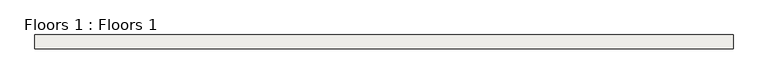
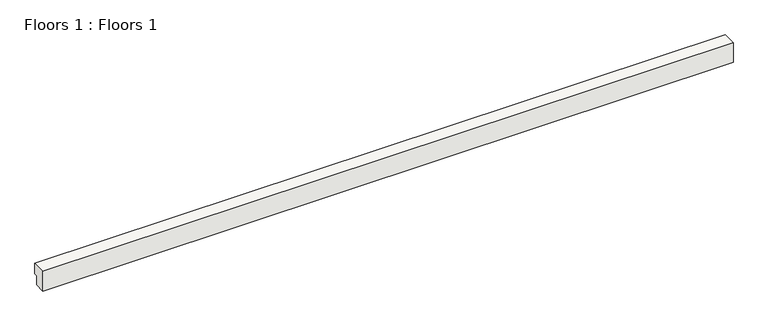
"""IFC4 building model written with IfcOpenShell, lengths in millimetres: slab geometry, Floors 1 : Floors 1."""

from ifc_helpers import new_model, si_unit, frame, origin, place, context, project, spatial, polyline, outline, extrude, source, transform, mapped, element, save


def floors_1_floors_1_6af37cf8(model_context):
    return source(origin(), model_context, "Body", "SweptSolid", [
        extrude(outline(polyline([(452.1543106, 0.0), (452.1543106, -80.0), (432.1543106, -80.0), (432.1543106, -150.0), (352.1543106, -150.0), (352.1543106, 0.0), (452.1543106, 0.0)])), frame((-2729.1859986, 0.0, 0.0), z_axis=(1.0, 0.0, 0.0), x_axis=(0.0, 1.0, 0.0)), (0.0, 0.0, 1.0), 4993.0779802),
    ])


if __name__ == "__main__":
    model = new_model("IFC4")
    model_context = context("Model", 3, world=origin())
    ifc_project = project(units=[si_unit("LENGTHUNIT", "METRE", prefix="MILLI")], contexts=[model_context])
    site = spatial("IfcSite", under=ifc_project)
    building = spatial("IfcBuilding", under=site)
    placement = place(None, origin())
    floors_1_floors_1_shape = floors_1_floors_1_6af37cf8(model_context)
    element("IfcSlab", 1, ObjectType="Floors 1 : Floors 1", at=placement, inside=building, context=model_context, shape_type="MappedRepresentation", body=[
        mapped(floors_1_floors_1_shape, transform((0.0, 0.0, 0.0), x_axis=(1.0, 0.0, 0.0), y_axis=(0.0, 1.0, 0.0), z_axis=(0.0, 0.0, 1.0))),
    ])
    save(model, "model.ifc")
